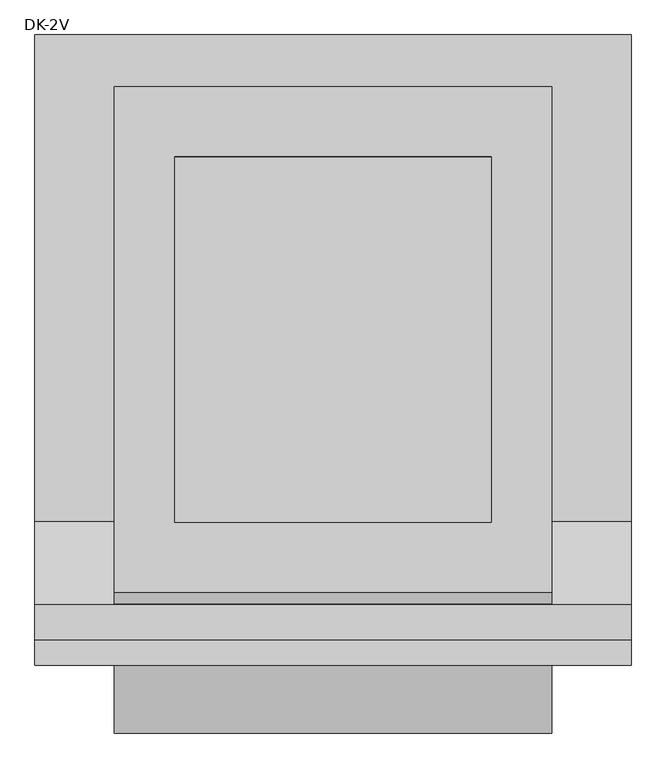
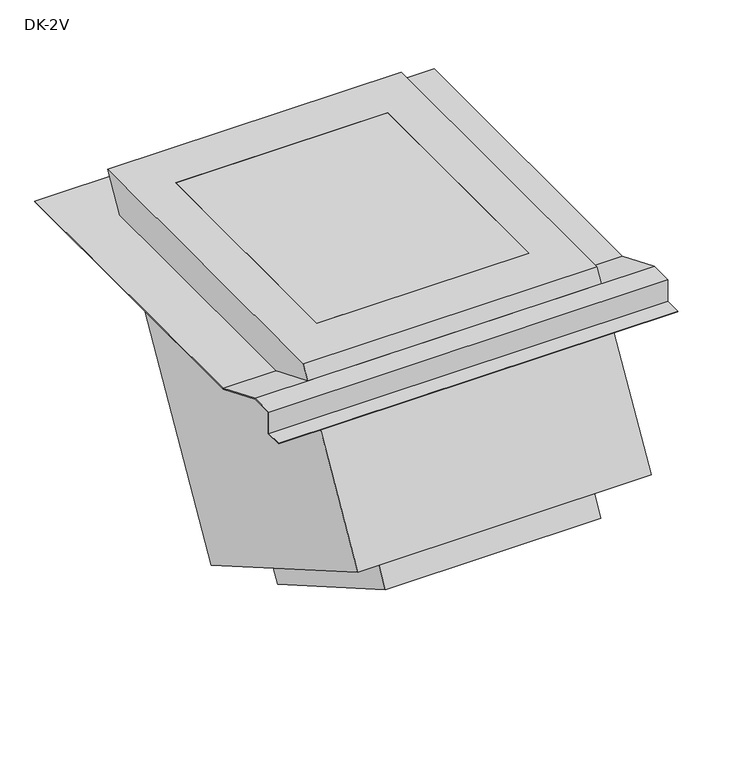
"""IFC4 building model written with IfcOpenShell, lengths in millimetres: air terminal geometry, AIR_FB_Roof cowl DK-2V_SMA : DK-2V."""

from ifc_helpers import new_model, si_unit, frame, origin, place, context, project, spatial, polyline, outline, extrude, faceted_brep, source, transform, mapped, element, save


def dk_2v_9633a85e(model_context):
    return source(origin(), model_context, "Body", "SolidModel", [
        faceted_brep([(415.0, 479.2007234, 104.0), (415.0, -479.2007234, 104.0), (415.0, -501.2856855, 65.7477236), (415.0, -346.0155817, 2.0), (415.0, 420.310996, 2.0), (415.0, -746.0030829, -358.1152423), (415.0, -27.2019978, -773.1152423), (415.0, 419.1562954, 0.0), (415.0, -346.4101615, 0.0), (415.0, -502.2947342, 64.0), (-415.0, -27.2019978, -773.1152423), (-415.0, -746.0030829, -358.1152423), (-415.0, -502.2947342, 64.0), (-415.0, -346.4101615, 0.0), (-415.0, 419.1562954, 0.0), (-415.0, -479.2007234, 104.0), (-415.0, 479.2007234, 104.0), (-415.0, 420.310996, 2.0), (-415.0, -346.0155817, 2.0), (-415.0, -501.2856855, 65.7477236), (300.0, 346.4101615, 104.0), (300.0, -346.4101615, 104.0), (-300.0, -346.4101615, 104.0), (-300.0, 346.4101615, 104.0), (305.0, -650.7402885, -413.1152423), (305.0, -122.4647922, -718.1152423), (-305.0, -122.4647922, -718.1152423), (-305.0, -650.7402885, -413.1152423), (300.0, -166.7949192, -784.8972746), (300.0, -686.4101615, -484.8972746), (-300.0, -686.4101615, -484.8972746), (-300.0, -166.7949192, -784.8972746), (305.0, -690.7402885, -482.3972746), (-305.0, -690.7402885, -482.3972746), (-305.0, -162.4647922, -787.3972746), (305.0, -162.4647922, -787.3972746), (565.0, 577.2007234, 2.0), (565.0, 577.2007234, 0.0), (-565.0, 577.2007234, 0.0), (-565.0, 577.2007234, 2.0), (565.0, -346.4101615, 0.0), (565.0, -502.2947342, 64.0), (-565.0, -502.2947342, 64.0), (-565.0, -346.4101615, 0.0), (-565.0, -346.0155817, 2.0), (-565.0, -501.9001544, 66.0), (565.0, -501.9001544, 66.0), (565.0, -346.0155817, 2.0), (565.0, -567.2947342, 64.0), (-565.0, -567.2947342, 64.0), (-565.0, -569.2947342, 66.0), (565.0, -569.2947342, 66.0), (565.0, -567.2947342, 0.0), (-565.0, -567.2947342, 0.0), (-565.0, -569.2947342, 2.0), (565.0, -569.2947342, 2.0), (565.0, -617.2947342, 2.0), (-565.0, -617.2947342, 2.0), (-565.0, -617.2947342, 0.0), (565.0, -617.2947342, 0.0)], [[[0, 1, 2, 3, 4]], [[5, 6, 7, 8, 9]], [[10, 11, 12, 13, 14]], [[15, 16, 17, 18, 19]], [[6, 10, 14, 7]], [[16, 0, 4, 17]], [[1, 0, 16, 15], [20, 21, 22, 23]], [[1, 15, 19, 2]], [[11, 5, 9, 12]], [[6, 5, 11, 10], [24, 25, 26, 27]], [[28, 29, 21, 20]], [[30, 31, 23, 22]], [[28, 20, 23, 31]], [[21, 29, 30, 22]], [[32, 33, 34, 35], [29, 28, 31, 30]], [[32, 35, 25, 24]], [[35, 34, 26, 25]], [[34, 33, 27, 26]], [[33, 32, 24, 27]], [[36, 37, 38, 39]], [[40, 41, 9, 8]], [[42, 43, 13, 12]], [[44, 45, 46, 47, 3, 2, 19, 18]], [[41, 48, 49, 42, 12, 9]], [[46, 45, 50, 51]], [[49, 48, 52, 53]], [[51, 50, 54, 55]], [[56, 57, 58, 59]], [[53, 52, 59, 58]], [[55, 54, 57, 56]], [[37, 36, 47, 46, 51, 55, 56, 59, 52, 48, 41, 40]], [[38, 37, 40, 8, 7, 14, 13, 43]], [[39, 38, 43, 42, 49, 53, 58, 57, 54, 50, 45, 44]], [[36, 39, 44, 18, 17, 4, 3, 47]]]),
        extrude(outline(polyline([(300.0, 346.4101615), (300.0, -346.4101615), (-300.0, -346.4101615), (-300.0, 346.4101615), (300.0, 346.4101615)])), frame((0.0, 0.0, 97.2029442), z_axis=(0.0, 0.0, 1.0), x_axis=(1.0, 0.0, 0.0)), (0.0, 0.0, 1.0), 6.7970558),
    ])


if __name__ == "__main__":
    model = new_model("IFC4")
    model_context = context("Model", 3, world=origin())
    ifc_project = project(units=[si_unit("LENGTHUNIT", "METRE", prefix="MILLI")], contexts=[model_context])
    site = spatial("IfcSite", under=ifc_project)
    building = spatial("IfcBuilding", under=site)
    placement = place(None, origin())
    dk_2v_shape = dk_2v_9633a85e(model_context)
    element("IfcAirTerminal", 1, ObjectType="AIR_FB_Roof cowl DK-2V_SMA : DK-2V", at=placement, inside=building, context=model_context, shape_type="MappedRepresentation", body=[
        mapped(dk_2v_shape, transform((0.0, 0.0, 0.0), x_axis=(1.0, 0.0, 0.0), y_axis=(0.0, 1.0, 0.0), z_axis=(0.0, 0.0, 1.0))),
    ])
    save(model, "model.ifc")
